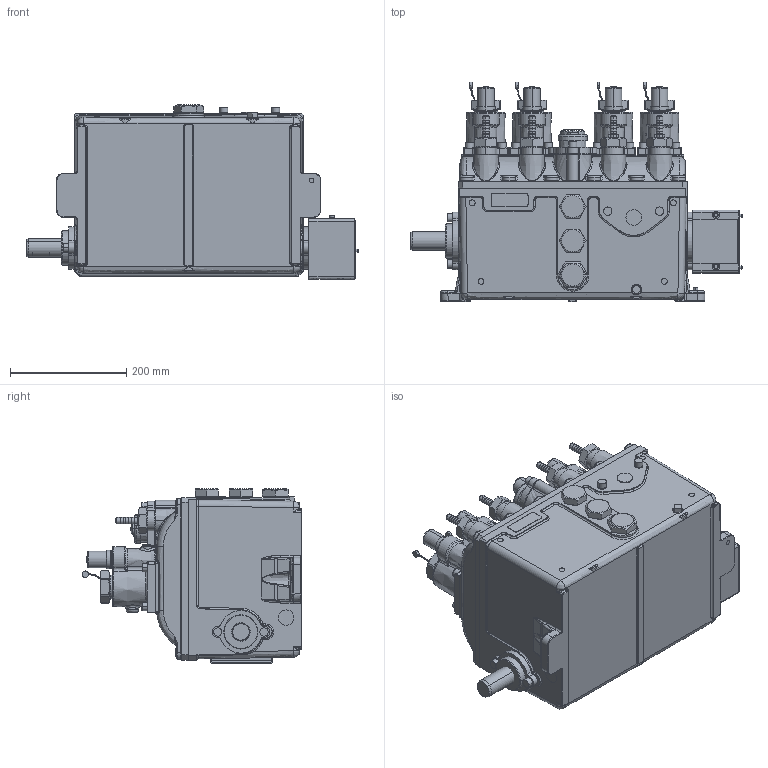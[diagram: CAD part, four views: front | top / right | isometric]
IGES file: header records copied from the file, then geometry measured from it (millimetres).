
Start section:  PTC IGES file: 258263-en-p.igs
Global section: file name: 258263-en-p.igs; native system: Creo Parametric by PTC Inc.; preprocessor: 2019030; author: qusrh3; organization: Unknown; date: 20191231.190923; units: inch
Bounding box: 570.27 x 377.51 x 300.05 mm (x, y, z)
Surface area: 1125493 mm2 (no closed solid volume)
Topology: 0 solids, 0 shells, 2110 faces, 9703 edges, 9698 vertices
Faces by surface type: revolution 1267, bspline 843
